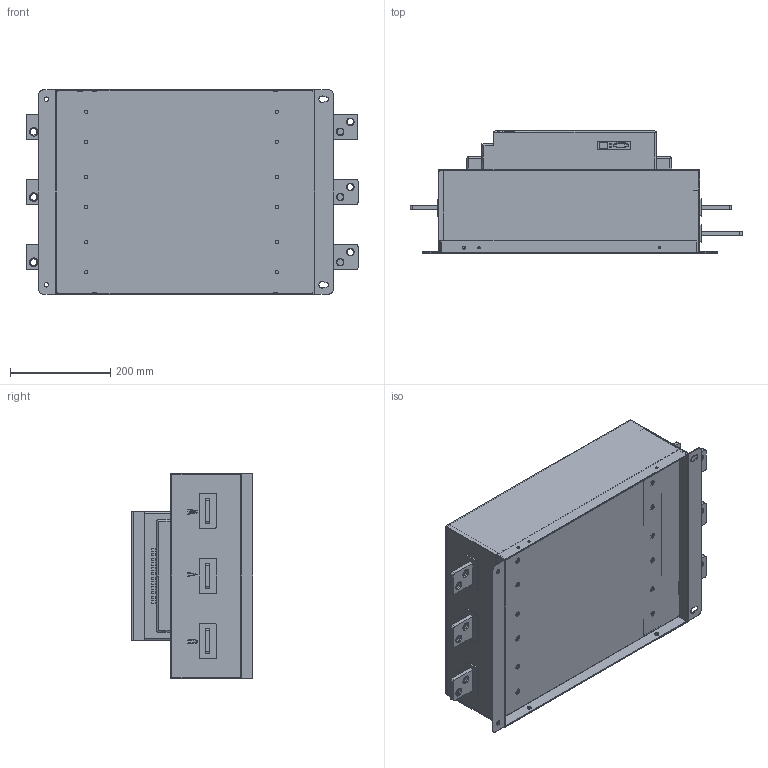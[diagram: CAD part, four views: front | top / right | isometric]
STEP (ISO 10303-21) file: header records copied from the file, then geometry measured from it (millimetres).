
FILE_DESCRIPTION (( 'STEP AP203' ), '1' );
FILE_NAME ('OptiCor S_500-600kWt.STEP', '2022-06-02T08:36:17', ( '' ), ( '' ), 'SwSTEP 2.0', 'SolidWorks 2018', '' );
FILE_SCHEMA (( 'CONFIG_CONTROL_DESIGN' ));
Length unit declared in the file: millimetre
Products named in the file (17): OptiCor S_500-600kWt; 8ZR.114.409盓傅璃^OptiCor S_500-600kWt_OptiCor S_500-600kWt; 8ZR.043.406盓殤^OptiCor S_500-600kWt_OptiCor S_500-600kWt; 8ZR.588.404絳萇啣^OptiCor S_500-600kWt_OptiCor S_500-600kWt; 8ZR.043.403盓殤^OptiCor S_500-600kWt_OptiCor S_500-600kWt; 8ZR.315.301¸Ç^OptiCor S_500-600kWt_OptiCor S_500-600kWt; 8ZR.043.409盓殤^OptiCor S_500-600kWt_OptiCor S_500-600kWt; 8ZR.069.201諷秶醱啣^OptiCor S_500-600kWt_OptiCor S_500-600kWt; 8ZR.022.403菁釱^OptiCor S_500-600kWt_OptiCor S_500-600kWt; 8ZR.860.202梓齪^OptiCor S_500-600kWt_OptiCor S_500-600kWt; 8ZR.156.405垫片^OptiCor S_500-600kWt_OptiCor S_500-600kWt; 8ZR.864.201梓齪^OptiCor S_500-600kWt_OptiCor S_500-600kWt; 8ZR.114.407盓傅璃^OptiCor S_500-600kWt_OptiCor S_500-600kWt; 8ZR.864.202梓齪^OptiCor S_500-600kWt_OptiCor S_500-600kWt; 8ZR.114.401盓傅璃^OptiCor S_500-600kWt_OptiCor S_500-600kWt; OptiCor S_500-600kWt^OptiCor S_500-600kWt; 8ZR.588.402絳萇啣^OptiCor S_500-600kWt_OptiCor S_500-600kWt
Assembly tree (30 placements, depth 3):
  OptiCor S_500-600kWt
    OptiCor S_500-600kWt^OptiCor S_500-600kWt
      8ZR.043.406盓殤^OptiCor S_500-600kWt_OptiCor S_500-600kWt
      8ZR.043.403盓殤^OptiCor S_500-600kWt_OptiCor S_500-600kWt
      8ZR.043.409盓殤^OptiCor S_500-600kWt_OptiCor S_500-600kWt
      8ZR.022.403菁釱^OptiCor S_500-600kWt_OptiCor S_500-600kWt
      8ZR.156.405垫片^OptiCor S_500-600kWt_OptiCor S_500-600kWt
      8ZR.114.407盓傅璃^OptiCor S_500-600kWt_OptiCor S_500-600kWt  x2
      8ZR.114.401盓傅璃^OptiCor S_500-600kWt_OptiCor S_500-600kWt  x9
      8ZR.588.402絳萇啣^OptiCor S_500-600kWt_OptiCor S_500-600kWt  x3
      8ZR.114.409盓傅璃^OptiCor S_500-600kWt_OptiCor S_500-600kWt  x3
      8ZR.588.404絳萇啣^OptiCor S_500-600kWt_OptiCor S_500-600kWt  x3
      8ZR.315.301¸Ç^OptiCor S_500-600kWt_OptiCor S_500-600kWt
      8ZR.069.201諷秶醱啣^OptiCor S_500-600kWt_OptiCor S_500-600kWt
      8ZR.864.201梓齪^OptiCor S_500-600kWt_OptiCor S_500-600kWt
      8ZR.864.202梓齪^OptiCor S_500-600kWt_OptiCor S_500-600kWt
  8ZR.860.202梓齪^OptiCor S_500-600kWt_OptiCor S_500-600kWt
Bounding box: 662 x 243 x 410 mm (x, y, z)
Volume: 3305979.2 mm3; surface area: 2802518 mm2
Topology: 29 solids, 29 shells, 2058 faces, 6202 edges, 4274 vertices
Faces by surface type: bspline 2058
Entity records: 68770 total; most frequent: CARTESIAN_POINT 42029, ORIENTED_EDGE 8196, EDGE_CURVE 4098, B_SPLINE_CURVE_WITH_KNOTS 3636, VERTEX_POINT 2906, EDGE_LOOP 1714, FACE_OUTER_BOUND 1316, ADVANCED_FACE 1316
